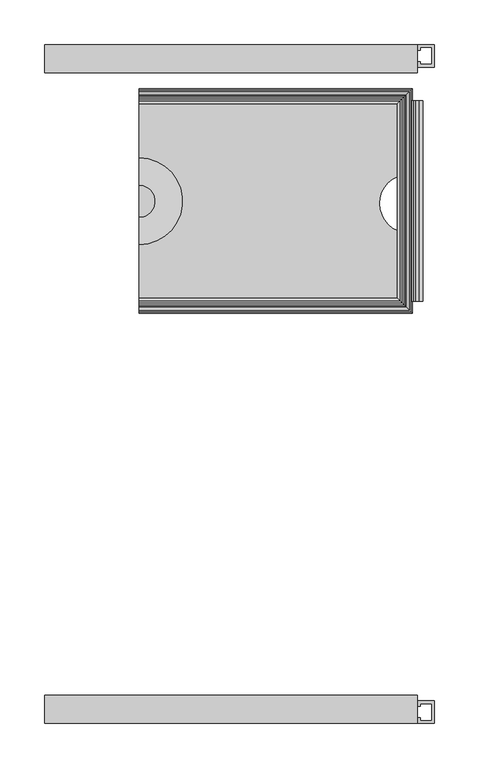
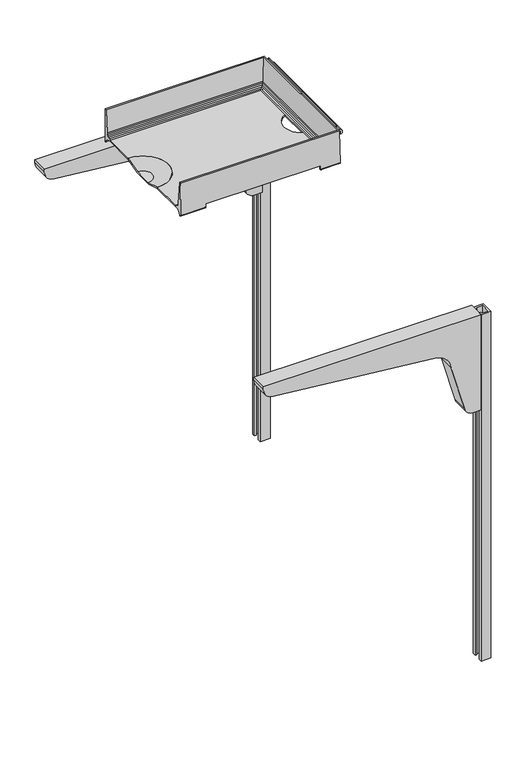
"""IFC4 building model written with IfcOpenShell, lengths in millimetres: proxy geometry, E0063 - Workstation, L-Shaped wPeninsula, Wall Mtd, 72x72 (1) : E0063 - Workstation, L-Shaped wPeninsula, Wall Mtd, 72x72 (1)."""

from ifc_helpers import new_model, si_unit, point, frame, frame_2d, origin, origin_with_axes, place, context, project, spatial, polyline, circle_curve, ellipse_curve, trimmed, segment, composite_curve, outline, extrude, source, transform, mapped, element, save
from ifc_brep_helpers import plane_surface, cylinder_surface, revolved_surface, advanced_brep


def specialty_equipment_12d14f2c(model_context):
    return source(origin(), model_context, "Body", "SolidModel", [
        advanced_brep(
        [(569.902809, 613.6244171, 802.285821), (569.902809, 616.3021779, 802.285821), (569.902809, 619.9189952, 757.4987299), (569.902809, 620.3446051, 754.7652349), (569.902809, 621.6795346, 752.0641961), (569.902809, 623.7913243, 749.9152311), (569.902809, 626.4686499, 748.5333558), (569.902809, 629.4436319, 748.0568348), (569.902809, 629.4436319, 745.2347267), (569.902809, 624.1902961, 745.0417283), (569.902809, 621.1516189, 743.9853514), (569.902809, 618.51537, 742.1415118), (569.902809, 616.4807558, 739.6495375), (569.902809, 615.5944182, 736.6062952), (569.902809, 612.6749198, 736.8863786), (876.0103619, 613.6244171, 802.285821), (876.0103619, 863.8895229, 802.285821), (569.902809, 863.8895229, 802.285821), (569.902809, 861.211762, 802.285821), (873.3326011, 861.211762, 802.285821), (873.3326011, 616.3021779, 802.285821), (869.7157837, 619.9189952, 757.4987299), (869.2901738, 620.3446051, 754.7652349), (867.9552444, 621.6795346, 752.0641961), (865.8434547, 623.7913243, 749.9152311), (863.166129, 626.4686499, 748.5333558), (860.1911471, 629.4436319, 748.0568348), (860.1911471, 629.4436319, 745.2347267), (865.4444829, 624.1902961, 745.0417283), (868.48316, 621.1516189, 743.9853514), (839.8062283, 621.1516189, 743.9853514), (618.6180678, 621.1516189, 743.9853514), (618.6180678, 618.51537, 742.1415118), (871.119409, 618.51537, 742.1415118), (839.8062283, 618.51537, 742.1415118), (618.6180678, 616.4807558, 739.6495375), (873.1540232, 616.4807558, 739.6495375), (839.8062283, 616.4807558, 739.6495375), (618.6180678, 615.5944182, 736.6062952), (874.0403608, 615.5944182, 736.6062952), (839.8062283, 615.5944182, 736.6062952), (618.6180678, 612.6749198, 736.8863786), (876.9598592, 612.6749198, 736.8863786), (839.8062283, 612.6749198, 736.8863786), (618.6180678, 612.7779857, 743.9853514), (839.8062283, 612.7779857, 743.9853514), (869.7157837, 857.5949447, 757.4987299), (869.2901738, 857.1693348, 754.7652349), (867.9552444, 855.8344053, 752.0641961), (865.8434547, 853.7226156, 749.9152311), (863.166129, 851.04529, 748.5333558), (860.1911471, 848.070308, 748.0568348), (860.1911471, 848.070308, 745.2347267), (865.4444829, 853.3236438, 745.0417283), (868.48316, 856.362321, 743.9853514), (871.119409, 858.9985699, 742.1415118), (873.1540232, 861.0331841, 739.6495375), (874.0403608, 861.9195217, 736.6062952), (876.9598592, 864.8390201, 736.8863786), (569.902809, 864.8390201, 736.8863786), (569.902809, 861.9195217, 736.6062952), (569.902809, 861.0331841, 739.6495375), (569.902809, 858.9985699, 742.1415118), (569.902809, 856.362321, 743.9853514), (569.902809, 853.3236438, 745.0417283), (569.902809, 848.070308, 745.2347267), (569.902809, 848.070308, 748.0568348), (569.902809, 851.04529, 748.5333558), (569.902809, 853.7226156, 749.9152311), (569.902809, 855.8344053, 752.0641961), (569.902809, 857.1693348, 754.7652349), (569.902809, 857.5949447, 757.4987299), (618.6180678, 856.362321, 743.9853514), (839.8062283, 856.362321, 743.9853514), (839.8062283, 858.9985699, 742.1415118), (618.6180678, 858.9985699, 742.1415118), (839.8062283, 861.0331841, 739.6495375), (618.6180678, 861.0331841, 739.6495375), (839.8062283, 861.9195217, 736.6062952), (618.6180678, 861.9195217, 736.6062952), (839.8062283, 864.8390201, 736.8863786), (618.6180678, 864.8390201, 736.8863786), (839.8062283, 864.7359542, 743.9853514), (618.6180678, 864.7359542, 743.9853514)],
        [
            (0, 1),
            (1, 2),
            (2, 3),
            (3, 4),
            (4, 5),
            (5, 6),
            (6, 7),
            (7, 8),
            (8, 9),
            (9, 10),
            (10, 11),
            (11, 12),
            (12, 13),
            (13, 14, circle_curve(frame((569.902809, 614.1710248, 737.1252981), z_axis=(-1.0, 0.0, 0.0), x_axis=(0.0, 1.0, 0.0)), 1.515062)),
            (14, 0),
            (0, 15),
            (15, 16),
            (16, 17),
            (17, 18),
            (18, 19),
            (19, 20),
            (20, 1),
            (20, 21),
            (21, 2),
            (21, 22),
            (22, 3),
            (22, 23),
            (23, 4),
            (23, 24),
            (24, 5),
            (24, 25),
            (25, 6),
            (25, 26),
            (26, 7),
            (26, 27),
            (27, 8),
            (27, 28),
            (28, 9),
            (28, 29),
            (29, 30),
            (30, 31),
            (31, 10),
            (31, 32),
            (32, 11),
            (29, 33),
            (33, 34),
            (34, 30),
            (32, 35),
            (35, 12),
            (33, 36),
            (36, 37),
            (37, 34),
            (35, 38),
            (38, 13),
            (36, 39),
            (39, 40),
            (40, 37),
            (38, 41, circle_curve(frame((618.6180678, 614.1710248, 737.1252981), z_axis=(-1.0, 0.0, 0.0), x_axis=(0.0, 1.0, 0.0)), 1.515062)),
            (41, 14),
            (39, 42, ellipse_curve(frame((875.4637542, 614.1710248, 737.1252981), z_axis=(-0.7071067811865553, -0.7071067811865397, 0.0), x_axis=(-0.7071067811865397, 0.7071067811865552, 0.0)), 2.1426212, 1.515062)),
            (42, 43),
            (43, 40, circle_curve(frame((839.8062283, 614.1710248, 737.1252981), z_axis=(1.0, 0.0, 0.0), x_axis=(0.0, 1.0, 0.0)), 1.515062)),
            (41, 44),
            (44, 45),
            (45, 43),
            (42, 15),
            (19, 46),
            (46, 21),
            (46, 47),
            (47, 22),
            (47, 48),
            (48, 23),
            (48, 49),
            (49, 24),
            (49, 50),
            (50, 25),
            (50, 51),
            (51, 26),
            (51, 52),
            (52, 27),
            (52, 53),
            (53, 28),
            (53, 54),
            (54, 29),
            (54, 55),
            (55, 33),
            (55, 56),
            (56, 36),
            (56, 57),
            (57, 39),
            (57, 58, ellipse_curve(frame((875.4637542, 863.3429151, 737.1252981), z_axis=(0.7071067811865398, -0.7071067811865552, 0.0), x_axis=(-0.7071067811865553, -0.7071067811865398, 0.0)), 2.1426212, 1.515062)),
            (58, 42),
            (58, 16),
            (17, 59),
            (59, 60, circle_curve(frame((569.902809, 863.3429151, 737.1252981), z_axis=(-1.0, 0.0, 0.0), x_axis=(0.0, -1.0, 0.0)), 1.515062)),
            (60, 61),
            (61, 62),
            (62, 63),
            (63, 64),
            (64, 65),
            (65, 66),
            (66, 67),
            (67, 68),
            (68, 69),
            (69, 70),
            (70, 71),
            (71, 18),
            (71, 46),
            (70, 47),
            (69, 48),
            (68, 49),
            (67, 50),
            (66, 51),
            (65, 52),
            (64, 53),
            (63, 72),
            (72, 73),
            (73, 54),
            (73, 74),
            (74, 55),
            (62, 75),
            (75, 72),
            (74, 76),
            (76, 56),
            (61, 77),
            (77, 75),
            (76, 78),
            (78, 57),
            (60, 79),
            (79, 77),
            (78, 80, circle_curve(frame((839.8062283, 863.3429151, 737.1252981), z_axis=(1.0, 0.0, 0.0), x_axis=(0.0, -1.0, 0.0)), 1.515062)),
            (80, 58),
            (59, 81),
            (81, 79, circle_curve(frame((618.6180678, 863.3429151, 737.1252981), z_axis=(-1.0, 0.0, 0.0), x_axis=(0.0, -1.0, 0.0)), 1.515062)),
            (80, 82),
            (82, 83),
            (83, 81),
            (45, 30),
            (73, 82),
            (44, 31),
            (72, 83),
        ],
        [
            plane_surface(frame((569.902809, 616.3021779, 802.285821), z_axis=(-1.0, 0.0, 0.0), x_axis=(0.0, 0.0, 1.0))),
            plane_surface(frame((569.902809, 613.6244171, 802.285821), z_axis=(0.0, 0.0, 1.0), x_axis=(1.0, 0.0, 0.0))),
            plane_surface(frame((569.902809, 616.3021779, 802.285821), z_axis=(0.0, 0.9967551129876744, 0.08049375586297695), x_axis=(1.0, 0.0, 0.0))),
            plane_surface(frame((569.902809, 619.9189952, 757.4987299), z_axis=(0.0, 0.9880945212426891, 0.15384803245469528), x_axis=(1.0, 0.0, 0.0))),
            plane_surface(frame((569.902809, 620.3446051, 754.7652349), z_axis=(0.0, 0.8964873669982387, 0.4430692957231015), x_axis=(1.0, 0.0, 0.0))),
            plane_surface(frame((569.902809, 621.6795346, 752.0641961), z_axis=(0.0, 0.7132491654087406, 0.7009105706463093), x_axis=(1.0, 0.0, 0.0))),
            plane_surface(frame((569.902809, 623.7913243, 749.9152311), z_axis=(0.0, 0.4586507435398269, 0.8886166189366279), x_axis=(1.0, 0.0, 0.0))),
            plane_surface(frame((569.902809, 626.4686499, 748.5333558), z_axis=(0.0, 0.15816001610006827, 0.9874134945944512), x_axis=(1.0, 0.0, 0.0))),
            plane_surface(frame((569.902809, 629.4436319, 748.0568348), z_axis=(0.0, 1.0, 0.0), x_axis=(1.0, 0.0, 0.0))),
            plane_surface(frame((569.902809, 629.4436319, 745.2347267), z_axis=(0.0, 0.036713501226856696, -0.9993258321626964), x_axis=(1.0, 0.0, 0.0))),
            plane_surface(frame((569.902809, 624.1902961, 745.0417283), z_axis=(0.0, 0.32836690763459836, -0.9445502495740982), x_axis=(1.0, 0.0, 0.0))),
            plane_surface(frame((569.902809, 621.1516189, 743.9853514), z_axis=(0.0, 0.5731421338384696, -0.8194559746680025), x_axis=(1.0, 0.0, 0.0))),
            plane_surface(frame((569.902809, 618.51537, 742.1415118), z_axis=(0.0, 0.7746079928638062, -0.6324416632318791), x_axis=(1.0, 0.0, 0.0))),
            plane_surface(frame((569.902809, 616.4807558, 739.6495375), z_axis=(0.0, 0.960108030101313, -0.27962934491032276), x_axis=(1.0, 0.0, 0.0))),
            cylinder_surface(frame((569.902809, 614.1710248, 737.1252981), z_axis=(-1.0, 0.0, 0.0), x_axis=(0.0, 1.0, 0.0)), 1.515062),
            plane_surface(frame((569.902809, 612.6749198, 736.8863786), z_axis=(0.0, -0.9998946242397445, 0.014516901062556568), x_axis=(1.0, 0.0, 0.0))),
            plane_surface(frame((873.3326011, 616.3021779, 802.285821), z_axis=(-0.9967551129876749, 0.0, 0.08049375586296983), x_axis=(0.0, 1.0, 0.0))),
            plane_surface(frame((869.7157837, 619.9189952, 757.4987299), z_axis=(-0.9880945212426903, 0.0, 0.15384803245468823), x_axis=(0.0, 1.0, 0.0))),
            plane_surface(frame((869.2901738, 620.3446051, 754.7652349), z_axis=(-0.8964873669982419, 0.0, 0.44306929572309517), x_axis=(0.0, 1.0, 0.0))),
            plane_surface(frame((867.9552444, 621.6795346, 752.0641961), z_axis=(-0.7132491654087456, 0.0, 0.7009105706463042), x_axis=(0.0, 1.0, 0.0))),
            plane_surface(frame((865.8434547, 623.7913243, 749.9152311), z_axis=(-0.45865074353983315, 0.0, 0.8886166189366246), x_axis=(0.0, 1.0, 0.0))),
            plane_surface(frame((863.166129, 626.4686499, 748.5333558), z_axis=(-0.15816001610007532, 0.0, 0.98741349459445), x_axis=(0.0, 1.0, 0.0))),
            plane_surface(frame((860.1911471, 629.4436319, 748.0568348), z_axis=(-1.0, 0.0, 0.0), x_axis=(0.0, 1.0, 0.0))),
            plane_surface(frame((860.1911471, 629.4436319, 745.2347267), z_axis=(-0.03671350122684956, 0.0, -0.9993258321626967), x_axis=(0.0, 1.0, 0.0))),
            plane_surface(frame((865.4444829, 624.1902961, 745.0417283), z_axis=(-0.32836690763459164, 0.0, -0.9445502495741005), x_axis=(0.0, 1.0, 0.0))),
            plane_surface(frame((868.48316, 621.1516189, 743.9853514), z_axis=(-0.5731421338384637, 0.0, -0.8194559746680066), x_axis=(0.0, 1.0, 0.0))),
            plane_surface(frame((871.119409, 618.51537, 742.1415118), z_axis=(-0.7746079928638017, 0.0, -0.6324416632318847), x_axis=(0.0, 1.0, 0.0))),
            plane_surface(frame((873.1540232, 616.4807558, 739.6495375), z_axis=(-0.9601080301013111, 0.0, -0.27962934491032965), x_axis=(0.0, 1.0, 0.0))),
            cylinder_surface(frame((875.4637542, 616.3021779, 737.1252981), z_axis=(0.0, -1.0, 0.0), x_axis=(-1.0, 0.0, 0.0)), 1.515062),
            plane_surface(frame((876.9598592, 612.6749198, 736.8863786), z_axis=(0.9998946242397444, 0.0, 0.014516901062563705), x_axis=(0.0, 1.0, 0.0))),
            plane_surface(frame((569.902809, 861.211762, 802.285821), z_axis=(-1.0, 0.0, 0.0), x_axis=(0.0, 0.0, 1.0))),
            plane_surface(frame((873.3326011, 861.211762, 802.285821), z_axis=(0.0, -0.9967551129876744, 0.08049375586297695), x_axis=(-1.0, 0.0, 0.0))),
            plane_surface(frame((869.7157837, 857.5949447, 757.4987299), z_axis=(0.0, -0.9880945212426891, 0.15384803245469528), x_axis=(-1.0, 0.0, 0.0))),
            plane_surface(frame((869.2901738, 857.1693348, 754.7652349), z_axis=(0.0, -0.8964873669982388, 0.44306929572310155), x_axis=(-1.0, 0.0, 0.0))),
            plane_surface(frame((867.9552444, 855.8344053, 752.0641961), z_axis=(0.0, -0.7132491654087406, 0.7009105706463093), x_axis=(-1.0, 0.0, 0.0))),
            plane_surface(frame((865.8434547, 853.7226156, 749.9152311), z_axis=(0.0, -0.4586507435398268, 0.8886166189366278), x_axis=(-1.0, 0.0, 0.0))),
            plane_surface(frame((863.166129, 851.04529, 748.5333558), z_axis=(0.0, -0.15816001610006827, 0.9874134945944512), x_axis=(-1.0, 0.0, 0.0))),
            plane_surface(frame((860.1911471, 848.070308, 748.0568348), z_axis=(0.0, -1.0, 0.0), x_axis=(-1.0, 0.0, 0.0))),
            plane_surface(frame((860.1911471, 848.070308, 745.2347267), z_axis=(0.0, -0.036713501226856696, -0.9993258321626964), x_axis=(-1.0, 0.0, 0.0))),
            plane_surface(frame((865.4444829, 853.3236438, 745.0417283), z_axis=(0.0, -0.32836690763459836, -0.9445502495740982), x_axis=(-1.0, 0.0, 0.0))),
            plane_surface(frame((868.48316, 856.362321, 743.9853514), z_axis=(0.0, -0.5731421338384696, -0.8194559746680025), x_axis=(-1.0, 0.0, 0.0))),
            plane_surface(frame((871.119409, 858.9985699, 742.1415118), z_axis=(0.0, -0.7746079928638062, -0.6324416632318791), x_axis=(-1.0, 0.0, 0.0))),
            plane_surface(frame((873.1540232, 861.0331841, 739.6495375), z_axis=(0.0, -0.9601080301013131, -0.2796293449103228), x_axis=(-1.0, 0.0, 0.0))),
            cylinder_surface(frame((873.3326011, 863.3429151, 737.1252981), z_axis=(1.0, 0.0, 0.0), x_axis=(0.0, -1.0, 0.0)), 1.515062),
            plane_surface(frame((876.9598592, 864.8390201, 736.8863786), z_axis=(0.0, 0.9998946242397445, 0.014516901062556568), x_axis=(-1.0, 0.0, 0.0))),
            plane_surface(frame((839.8062283, 591.7884212, 726.1670974), z_axis=(-1.0, 0.0, 0.0), x_axis=(0.0, 1.0, 0.0))),
            plane_surface(frame((839.8062283, 591.7884212, 743.9853514), z_axis=(0.0, 0.0, -1.0), x_axis=(0.0, 1.0, 0.0))),
            plane_surface(frame((618.6180678, 591.7884212, 743.9853514), z_axis=(1.0, 0.0, 0.0), x_axis=(0.0, 1.0, 0.0))),
        ],
        [
            (0, [[1, 2, 3, 4, 5, 6, 7, 8, 9, 10, 11, 12, 13, 14, 15]]),
            (1, [[-1, 16, 17, 18, 19, 20, 21, 22]]),
            (2, [[-2, -22, 23, 24]]),
            (3, [[-3, -24, 25, 26]]),
            (4, [[-4, -26, 27, 28]]),
            (5, [[-5, -28, 29, 30]]),
            (6, [[-6, -30, 31, 32]]),
            (7, [[-7, -32, 33, 34]]),
            (8, [[-8, -34, 35, 36]]),
            (9, [[-9, -36, 37, 38]]),
            (10, [[-10, -38, 39, 40, 41, 42]]),
            (11, [[-11, -42, 43, 44]]),
            (11, [[45, 46, 47, -40]]),
            (12, [[-12, -44, 48, 49]]),
            (12, [[50, 51, 52, -46]]),
            (13, [[-13, -49, 53, 54]]),
            (13, [[55, 56, 57, -51]]),
            (14, [[-14, -54, 58, 59]]),
            (14, [[60, 61, 62, -56]]),
            (15, [[-15, -59, 63, 64, 65, -61, 66, -16]]),
            (16, [[-21, 67, 68, -23]]),
            (17, [[-25, -68, 69, 70]]),
            (18, [[-27, -70, 71, 72]]),
            (19, [[-29, -72, 73, 74]]),
            (20, [[-31, -74, 75, 76]]),
            (21, [[-33, -76, 77, 78]]),
            (22, [[-35, -78, 79, 80]]),
            (23, [[-37, -80, 81, 82]]),
            (24, [[-39, -82, 83, 84]]),
            (25, [[-45, -84, 85, 86]]),
            (26, [[-50, -86, 87, 88]]),
            (27, [[-55, -88, 89, 90]]),
            (28, [[-60, -90, 91, 92]]),
            (29, [[-17, -66, -92, 93]]),
            (30, [[-19, 94, 95, 96, 97, 98, 99, 100, 101, 102, 103, 104, 105, 106, 107]]),
            (31, [[-20, -107, 108, -67]]),
            (32, [[-69, -108, -106, 109]]),
            (33, [[-71, -109, -105, 110]]),
            (34, [[-73, -110, -104, 111]]),
            (35, [[-75, -111, -103, 112]]),
            (36, [[-77, -112, -102, 113]]),
            (37, [[-79, -113, -101, 114]]),
            (38, [[-81, -114, -100, 115]]),
            (39, [[-83, -115, -99, 116, 117, 118]]),
            (40, [[-85, -118, 119, 120]]),
            (40, [[-98, 121, 122, -116]]),
            (41, [[-87, -120, 123, 124]]),
            (41, [[-97, 125, 126, -121]]),
            (42, [[-89, -124, 127, 128]]),
            (42, [[-96, 129, 130, -125]]),
            (43, [[-91, -128, 131, 132]]),
            (43, [[-95, 133, 134, -129]]),
            (44, [[-18, -93, -132, 135, 136, 137, -133, -94]]),
            (45, [[138, -47, -52, -57, -62, -65]]),
            (45, [[139, -135, -131, -127, -123, -119]]),
            (46, [[-138, -64, 140, -41]]),
            (46, [[-139, -117, 141, -136]]),
            (47, [[-140, -63, -58, -53, -48, -43]]),
            (47, [[-141, -122, -126, -130, -134, -137]]),
        ],
    ),
        advanced_brep(
        [(569.9910727, 757.4930574, 736.6), (569.9910727, 738.4430574, 736.6), (569.9910727, 738.4430574, 739.1825046), (569.9910727, 756.6107989, 739.1825046), (569.9910727, 787.0700276, 748.0566434), (569.9910727, 787.0700276, 745.2170974), (569.9910727, 719.3930574, 736.6), (569.9910727, 689.8160872, 745.2170974), (569.9910727, 689.8160872, 748.0566434), (569.9910727, 720.2753159, 739.1825046)],
        [
            (0, 1),
            (1, 2),
            (2, 3),
            (3, 4),
            (4, 5),
            (5, 0),
            (6, 7),
            (7, 8),
            (8, 9),
            (9, 2),
            (1, 6),
            (6, 0, circle_curve(frame((569.9910727, 738.4430574, 736.6), z_axis=(0.0, 0.0, 1.0), x_axis=(0.0, 1.0, 0.0)), 19.05)),
            (5, 7, circle_curve(frame((569.9910727, 738.4430574, 745.2170974), z_axis=(0.0, 0.0, -1.0), x_axis=(0.0, 1.0, 0.0)), 48.6269702)),
            (4, 8, circle_curve(frame((569.9910727, 738.4430574, 748.0566434), z_axis=(0.0, 0.0, -1.0), x_axis=(0.0, 1.0, 0.0)), 48.6269702)),
            (3, 9, circle_curve(frame((569.9910727, 738.4430574, 739.1825046), z_axis=(0.0, 0.0, -1.0), x_axis=(0.0, 1.0, 0.0)), 18.1677415)),
        ],
        [
            plane_surface(frame((569.9910727, 738.4430574, 739.1825046), z_axis=(-1.0, 0.0, 0.0), x_axis=(0.0, 1.0, 0.0))),
            plane_surface(frame((569.9910727, 738.4430574, 739.1825046), z_axis=(-1.0, 0.0, 0.0), x_axis=(0.0, -1.0, 0.0))),
            revolved_surface(polyline([(569.9910727, 757.4930574, 736.6), (569.9910727, 787.0700276, 745.2170974)]), (569.9910727, 738.4430574, 739.1825046), (0.0, 0.0, 1.0)),
            cylinder_surface(frame((569.9910727, 738.4430574, 739.1825046), z_axis=(0.0, 0.0, 1.0), x_axis=(0.0, 1.0, 0.0)), 48.6269702),
            revolved_surface(polyline([(569.9910727, 787.0700276, 748.0566434), (569.9910727, 756.6107989, 739.1825046)]), (569.9910727, 738.4430574, 739.1825046), (0.0, 0.0, 1.0)),
            plane_surface(frame((569.9910727, 738.4430574, 739.1825046), z_axis=(0.0, 0.0, 1.0), x_axis=(0.0, 1.0, 0.0))),
            plane_surface(frame((569.9910727, 738.4430574, 736.6), z_axis=(0.0, 0.0, -1.0), x_axis=(0.0, 1.0, 0.0))),
        ],
        [
            (0, [[1, 2, 3, 4, 5, 6]]),
            (1, [[7, 8, 9, 10, -2, 11]]),
            (2, [[12, -6, 13, -7]]),
            (3, [[-13, -5, 14, -8]]),
            (4, [[-14, -4, 15, -9]]),
            (5, [[-15, -3, -10]]),
            (6, [[-1, -12, -11]]),
        ],
    ),
        extrude(outline(composite_curve([segment(polyline([(569.9359172, 787.0996294), (569.9359172, 848.070308), (860.1911471, 848.070308), (860.1911471, 766.1501837)]), True, "CONTINUOUS"), segment(trimmed(circle_curve(frame_2d((872.5193588, 735.848961)), 32.7131304), [point((860.1911471, 766.1501837))], [point((860.4033518, 705.4622653))], True, "CARTESIAN"), True, "CONTINUOUS"), segment(polyline([(860.4033518, 705.4622653), (860.4033518, 629.4436319), (569.9359172, 629.4436319), (569.9359172, 689.8457516)]), True, "CONTINUOUS"), segment(trimmed(circle_curve(frame_2d((569.9910976, 738.4726905)), 48.6269702), [point((569.9359172, 689.8457516))], [point((569.9359172, 787.0996294))], True, "CARTESIAN"), True, "CONTINUOUS")], self_intersect=False)), frame((0.0, 0.0, 745.2170974), z_axis=(0.0, 0.0, 1.0), x_axis=(1.0, 0.0, 0.0)), (0.0, 0.0, 1.0), 2.8395461),
        extrude(outline(composite_curve([segment(polyline([(794.4573609, 884.73711), (794.4573609, 880.3614498), (796.8047581, 876.0661768), (788.2999627, 876.0661768), (790.64736, 880.3614498), (790.64736, 883.9751141), (789.8853607, 884.7371134), (786.4563639, 884.7371134)]), True, "CONTINUOUS"), segment(trimmed(circle_curve(frame_2d((786.4563639, 886.6421122)), 1.9049988), [point((786.4563639, 884.7371134))], [point((786.4563639, 888.5471109))], False, "CARTESIAN"), True, "CONTINUOUS"), segment(polyline([(786.4563639, 888.5471109), (790.64736, 888.5471109)]), True, "CONTINUOUS"), segment(trimmed(circle_curve(frame_2d((790.64736, 884.73711)), 3.8100009), [point((790.64736, 888.5471109))], [point((794.4573609, 884.73711))], False, "CARTESIAN"), True, "CONTINUOUS")], self_intersect=False)), frame((0.0, 626.2171891, 0.0), z_axis=(0.0, 1.0, 0.0), x_axis=(0.0, 0.0, 1.0)), (0.0, 0.0, 1.0), 225.0795617),
        extrude(outline(composite_curve([segment(polyline([(805.1171629, 876.0661768), (802.2856296, 876.0661768), (802.2856296, 877.9109172), (805.1171629, 877.9109172)]), True, "CONTINUOUS"), segment(trimmed(circle_curve(frame_2d((804.8118961, 876.988547)), 0.9715733), [point((805.1171629, 877.9109172))], [point((805.1171629, 876.0661768))], False, "CARTESIAN"), True, "CONTINUOUS")], self_intersect=False)), frame((0.0, 626.2171891, 0.0), z_axis=(0.0, 1.0, 0.0), x_axis=(0.0, 0.0, 1.0)), (0.0, 0.0, 1.0), 225.0795617),
        extrude(outline(composite_curve([segment(polyline([(679.45, 482.6), (647.7, 793.75)]), True, "CONTINUOUS"), segment(trimmed(circle_curve(frame_2d((612.3420455, 790.1420455)), 35.5415572), [point((647.7, 793.75))], [point((615.95, 825.5))], True, "CARTESIAN"), True, "CONTINUOUS"), segment(polyline([(615.95, 825.5), (523.875, 850.9)]), True, "CONTINUOUS"), segment(trimmed(circle_curve(frame_2d((528.3371622, 867.6331081)), 17.3178462), [point((523.875, 850.9))], [point((511.175, 869.95))], False, "CARTESIAN"), True, "CONTINUOUS"), segment(polyline([(511.175, 869.95), (511.175, 882.65), (704.85, 882.65), (704.85, 463.55), (698.5, 463.55)]), True, "CONTINUOUS"), segment(trimmed(circle_curve(frame_2d((698.5, 482.6)), 19.05), [point((698.5, 463.55))], [point((679.45, 482.6))], False, "CARTESIAN"), True, "CONTINUOUS")], self_intersect=False)), frame((0.0, 152.4, 0.0), z_axis=(0.0, 1.0, 0.0), x_axis=(0.0, 0.0, 1.0)), (0.0, 0.0, 1.0), 31.75),
        extrude(outline(composite_curve([segment(polyline([(679.45, 482.6), (647.7, 793.75)]), True, "CONTINUOUS"), segment(trimmed(circle_curve(frame_2d((612.3420455, 790.1420455)), 35.5415572), [point((647.7, 793.75))], [point((615.95, 825.5))], True, "CARTESIAN"), True, "CONTINUOUS"), segment(polyline([(615.95, 825.5), (523.875, 850.9)]), True, "CONTINUOUS"), segment(trimmed(circle_curve(frame_2d((528.3371622, 867.6331081)), 17.3178462), [point((523.875, 850.9))], [point((511.175, 869.95))], False, "CARTESIAN"), True, "CONTINUOUS"), segment(polyline([(511.175, 869.95), (511.175, 882.65), (704.85, 882.65), (704.85, 463.55), (698.5, 463.55)]), True, "CONTINUOUS"), segment(trimmed(circle_curve(frame_2d((698.5, 482.6)), 19.05), [point((698.5, 463.55))], [point((679.45, 482.6))], False, "CARTESIAN"), True, "CONTINUOUS")], self_intersect=False)), frame((0.0, 882.65, 0.0), z_axis=(0.0, 1.0, 0.0), x_axis=(0.0, 0.0, 1.0)), (0.0, 0.0, 1.0), 31.75),
        extrude(outline(polyline([(885.8314815, 171.4500008), (882.65, 171.4500008), (882.65, 177.8000008), (901.7, 177.8000008), (901.7, 152.4), (882.65, 152.4), (882.65, 158.75), (885.8314815, 158.75), (885.8314815, 155.575), (898.5314815, 155.575), (898.5314815, 174.6250008), (885.8314815, 174.6250008), (885.8314815, 171.4500008)])), origin_with_axes(), (0.0, 0.0, 1.0), 704.85),
        extrude(outline(polyline([(885.8314815, 908.05), (882.65, 908.05), (882.65, 914.4), (901.7, 914.4), (901.7, 888.9999992), (882.65, 888.9999992), (882.65, 895.3499992), (885.8314815, 895.3499992), (885.8314815, 892.1749992), (898.5314815, 892.1749992), (898.5314815, 911.225), (885.8314815, 911.225), (885.8314815, 908.05)])), origin_with_axes(), (0.0, 0.0, 1.0), 704.85),
    ])


if __name__ == "__main__":
    model = new_model("IFC4")
    model_context = context("Model", 3, world=origin())
    ifc_project = project(units=[si_unit("LENGTHUNIT", "METRE", prefix="MILLI")], contexts=[model_context])
    site = spatial("IfcSite", under=ifc_project)
    building = spatial("IfcBuilding", under=site)
    placement = place(None, origin())
    specialty_equipment_shape = specialty_equipment_12d14f2c(model_context)
    element("IfcBuildingElementProxy", 1, Name="E0063 - Workstation, L-Shaped wPeninsula, Wall Mtd, 72x72 (1) : E0063 - Workstation, L-Shaped wPeninsula, Wall Mtd, 72x72 (1)", ObjectType="E0063 - Workstation, L-Shaped wPeninsula, Wall Mtd, 72x72 (1) : E0063 - Workstation, L-Shaped wPeninsula, Wall Mtd, 72x72 (1)", at=placement, inside=building, context=model_context, shape_type="MappedRepresentation", body=[
        mapped(specialty_equipment_shape, transform((0.0, 0.0, 0.0), x_axis=(1.0, 0.0, 0.0), y_axis=(0.0, 1.0, 0.0), z_axis=(0.0, 0.0, 1.0))),
    ])
    save(model, "model.ifc")
